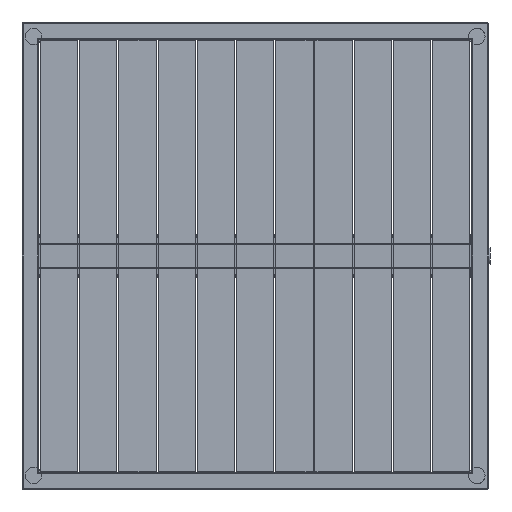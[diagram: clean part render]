
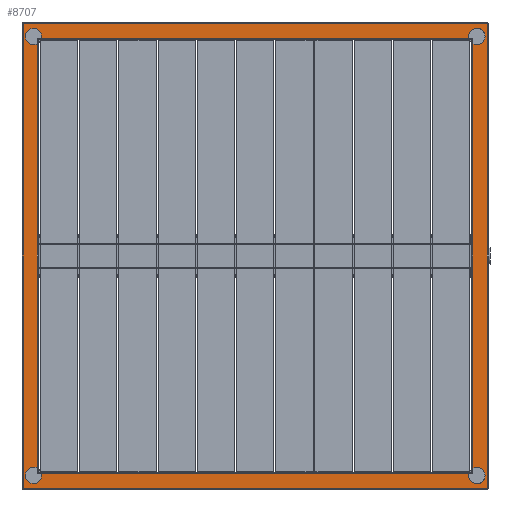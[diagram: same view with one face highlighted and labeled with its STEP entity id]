
A CAD part, front view. The second image highlights one B-rep face of the part: STEP entity #8707.
In plain terms, the highlighted planar face has unit normal (0, -1, 0).
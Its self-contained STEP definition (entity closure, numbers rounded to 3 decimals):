
#42=FACE_BOUND('',#1959,.T.);
#610=CIRCLE('',#9423,15.);
#611=CIRCLE('',#9424,15.);
#614=CIRCLE('',#9430,15.);
#615=CIRCLE('',#9431,15.);
#616=CIRCLE('',#9434,15.);
#617=CIRCLE('',#9435,15.);
#618=CIRCLE('',#9436,15.);
#619=CIRCLE('',#9437,15.);
#1271=FACE_OUTER_BOUND('',#1958,.T.);
#1958=EDGE_LOOP('',(#6128,#6129,#6130,#6131));
#1959=EDGE_LOOP('',(#6132,#6133,#6134,#6135,#6136,#6137,#6138,#6139,#6140,
#6141,#6142,#6143));
#2967=LINE('',#14077,#3525);
#2968=LINE('',#14079,#3526);
#2969=LINE('',#14081,#3527);
#2970=LINE('',#14082,#3528);
#2971=LINE('',#14084,#3529);
#2972=LINE('',#14090,#3530);
#2973=LINE('',#14095,#3531);
#2974=LINE('',#14096,#3532);
#3525=VECTOR('',#10925,10.);
#3526=VECTOR('',#10926,10.);
#3527=VECTOR('',#10927,10.);
#3528=VECTOR('',#10928,10.);
#3529=VECTOR('',#10929,10.);
#3530=VECTOR('',#10934,10.);
#3531=VECTOR('',#10939,10.);
#3532=VECTOR('',#10940,10.);
#4038=VERTEX_POINT('',#14046);
#4039=VERTEX_POINT('',#14048);
#4041=VERTEX_POINT('',#14054);
#4043=VERTEX_POINT('',#14061);
#4044=VERTEX_POINT('',#14063);
#4046=VERTEX_POINT('',#14069);
#4047=VERTEX_POINT('',#14075);
#4048=VERTEX_POINT('',#14076);
#4049=VERTEX_POINT('',#14078);
#4050=VERTEX_POINT('',#14080);
#4051=VERTEX_POINT('',#14083);
#4052=VERTEX_POINT('',#14085);
#4053=VERTEX_POINT('',#14087);
#4054=VERTEX_POINT('',#14089);
#4055=VERTEX_POINT('',#14091);
#4056=VERTEX_POINT('',#14093);
#4834=EDGE_CURVE('',#4038,#4041,#610,.T.);
#4835=EDGE_CURVE('',#4041,#4039,#611,.T.);
#4841=EDGE_CURVE('',#4043,#4046,#614,.T.);
#4842=EDGE_CURVE('',#4046,#4044,#615,.T.);
#4843=EDGE_CURVE('',#4047,#4048,#2967,.T.);
#4844=EDGE_CURVE('',#4049,#4047,#2968,.T.);
#4845=EDGE_CURVE('',#4050,#4049,#2969,.T.);
#4846=EDGE_CURVE('',#4048,#4050,#2970,.T.);
#4847=EDGE_CURVE('',#4051,#4039,#2971,.T.);
#4848=EDGE_CURVE('',#4051,#4052,#616,.T.);
#4849=EDGE_CURVE('',#4052,#4053,#617,.T.);
#4850=EDGE_CURVE('',#4054,#4053,#2972,.T.);
#4851=EDGE_CURVE('',#4054,#4055,#618,.T.);
#4852=EDGE_CURVE('',#4055,#4056,#619,.T.);
#4853=EDGE_CURVE('',#4043,#4056,#2973,.T.);
#4854=EDGE_CURVE('',#4038,#4044,#2974,.T.);
#6128=ORIENTED_EDGE('',*,*,#4843,.F.);
#6129=ORIENTED_EDGE('',*,*,#4844,.F.);
#6130=ORIENTED_EDGE('',*,*,#4845,.F.);
#6131=ORIENTED_EDGE('',*,*,#4846,.F.);
#6132=ORIENTED_EDGE('',*,*,#4834,.T.);
#6133=ORIENTED_EDGE('',*,*,#4835,.T.);
#6134=ORIENTED_EDGE('',*,*,#4847,.F.);
#6135=ORIENTED_EDGE('',*,*,#4848,.T.);
#6136=ORIENTED_EDGE('',*,*,#4849,.T.);
#6137=ORIENTED_EDGE('',*,*,#4850,.F.);
#6138=ORIENTED_EDGE('',*,*,#4851,.T.);
#6139=ORIENTED_EDGE('',*,*,#4852,.T.);
#6140=ORIENTED_EDGE('',*,*,#4853,.F.);
#6141=ORIENTED_EDGE('',*,*,#4841,.T.);
#6142=ORIENTED_EDGE('',*,*,#4842,.T.);
#6143=ORIENTED_EDGE('',*,*,#4854,.F.);
#8250=PLANE('',#9433);
#8707=ADVANCED_FACE('',(#1271,#42),#8250,.F.);
#9423=AXIS2_PLACEMENT_3D('',#14056,#10900,#10901);
#9424=AXIS2_PLACEMENT_3D('',#14057,#10902,#10903);
#9430=AXIS2_PLACEMENT_3D('',#14071,#10917,#10918);
#9431=AXIS2_PLACEMENT_3D('',#14072,#10919,#10920);
#9433=AXIS2_PLACEMENT_3D('',#14074,#10923,#10924);
#9434=AXIS2_PLACEMENT_3D('',#14086,#10930,#10931);
#9435=AXIS2_PLACEMENT_3D('',#14088,#10932,#10933);
#9436=AXIS2_PLACEMENT_3D('',#14092,#10935,#10936);
#9437=AXIS2_PLACEMENT_3D('',#14094,#10937,#10938);
#10900=DIRECTION('center_axis',(0.,1.,0.));
#10901=DIRECTION('ref_axis',(-1.,0.,0.));
#10902=DIRECTION('center_axis',(0.,1.,0.));
#10903=DIRECTION('ref_axis',(-1.,0.,0.));
#10917=DIRECTION('center_axis',(0.,1.,0.));
#10918=DIRECTION('ref_axis',(-1.,0.,0.));
#10919=DIRECTION('center_axis',(0.,1.,0.));
#10920=DIRECTION('ref_axis',(-1.,0.,0.));
#10923=DIRECTION('center_axis',(0.,1.,0.));
#10924=DIRECTION('ref_axis',(0.,0.,1.));
#10925=DIRECTION('',(1.,0.,0.));
#10926=DIRECTION('',(0.,0.,1.));
#10927=DIRECTION('',(-1.,0.,0.));
#10928=DIRECTION('',(0.,0.,-1.));
#10929=DIRECTION('',(0.,0.,-1.));
#10930=DIRECTION('center_axis',(0.,1.,0.));
#10931=DIRECTION('ref_axis',(-1.,0.,0.));
#10932=DIRECTION('center_axis',(0.,1.,0.));
#10933=DIRECTION('ref_axis',(-1.,0.,0.));
#10934=DIRECTION('',(-1.,0.,0.));
#10935=DIRECTION('center_axis',(0.,1.,0.));
#10936=DIRECTION('ref_axis',(-1.,0.,0.));
#10937=DIRECTION('center_axis',(0.,1.,0.));
#10938=DIRECTION('ref_axis',(-1.,0.,0.));
#10939=DIRECTION('',(0.,0.,1.));
#10940=DIRECTION('',(1.,0.,0.));
#14046=CARTESIAN_POINT('',(-389.303,0.,-397.));
#14048=CARTESIAN_POINT('',(-397.,0.,-386.734));
#14054=CARTESIAN_POINT('',(-389.,0.,-400.));
#14056=CARTESIAN_POINT('Origin',(-404.,0.,-400.));
#14057=CARTESIAN_POINT('Origin',(-404.,0.,-400.));
#14061=CARTESIAN_POINT('',(397.,0.,-386.734));
#14063=CARTESIAN_POINT('',(389.303,0.,-397.));
#14069=CARTESIAN_POINT('',(419.,0.,-400.));
#14071=CARTESIAN_POINT('Origin',(404.,0.,-400.));
#14072=CARTESIAN_POINT('Origin',(404.,0.,-400.));
#14074=CARTESIAN_POINT('Origin',(0.,0.,0.));
#14075=CARTESIAN_POINT('',(-423.,0.,423.));
#14076=CARTESIAN_POINT('',(423.,0.,423.));
#14077=CARTESIAN_POINT('',(-212.5,0.,423.));
#14078=CARTESIAN_POINT('',(-423.,0.,-423.));
#14079=CARTESIAN_POINT('',(-423.,0.,-212.5));
#14080=CARTESIAN_POINT('',(423.,0.,-423.));
#14081=CARTESIAN_POINT('',(212.5,0.,-423.));
#14082=CARTESIAN_POINT('',(423.,0.,212.5));
#14083=CARTESIAN_POINT('',(-397.,0.,386.734));
#14084=CARTESIAN_POINT('',(-397.,0.,-197.5));
#14085=CARTESIAN_POINT('',(-389.,0.,400.));
#14086=CARTESIAN_POINT('Origin',(-404.,0.,400.));
#14087=CARTESIAN_POINT('',(-389.303,0.,397.));
#14088=CARTESIAN_POINT('Origin',(-404.,0.,400.));
#14089=CARTESIAN_POINT('',(389.303,0.,397.));
#14090=CARTESIAN_POINT('',(-197.5,0.,397.));
#14091=CARTESIAN_POINT('',(419.,0.,400.));
#14092=CARTESIAN_POINT('Origin',(404.,0.,400.));
#14093=CARTESIAN_POINT('',(397.,0.,386.734));
#14094=CARTESIAN_POINT('Origin',(404.,0.,400.));
#14095=CARTESIAN_POINT('',(397.,0.,197.5));
#14096=CARTESIAN_POINT('',(197.5,0.,-397.));
